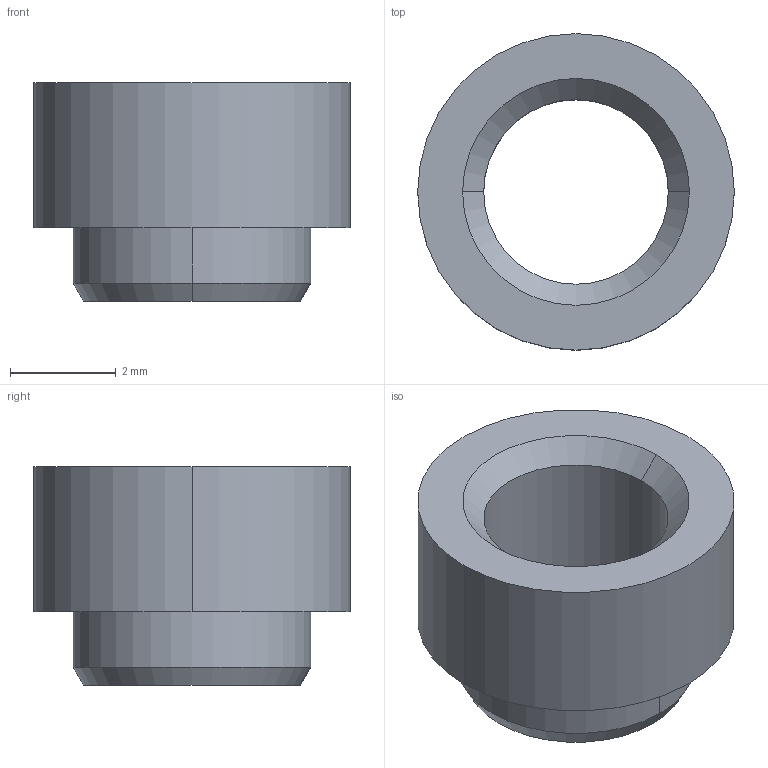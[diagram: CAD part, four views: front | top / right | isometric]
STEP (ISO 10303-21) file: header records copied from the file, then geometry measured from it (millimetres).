
FILE_DESCRIPTION((''),'2;1');
FILE_NAME('21060036_DRAEN','2023-05-26T19:54:32',('dWX1091079'),(''),'CREO PARAMETRIC BY PTC INC, 2019444','CREO PARAMETRIC BY PTC INC, 2019444','');
FILE_SCHEMA(('CONFIG_CONTROL_DESIGN'));
Length unit declared in the file: millimetre
Products named in the file (1): 21060036_DRAEN
Bounding box: 6 x 6 x 4.15 mm (x, y, z)
Volume: 58.7 mm3; surface area: 150 mm2
Topology: 1 solids, 1 shells, 13 faces, 26 edges, 16 vertices
Faces by surface type: cylinder 6, cone 4, plane 3
Entity records: 386 total; most frequent: DIRECTION 68, CARTESIAN_POINT 55, ORIENTED_EDGE 52, AXIS2_PLACEMENT_3D 29, EDGE_CURVE 26, VERTEX_POINT 16, EDGE_LOOP 16, CIRCLE 16
